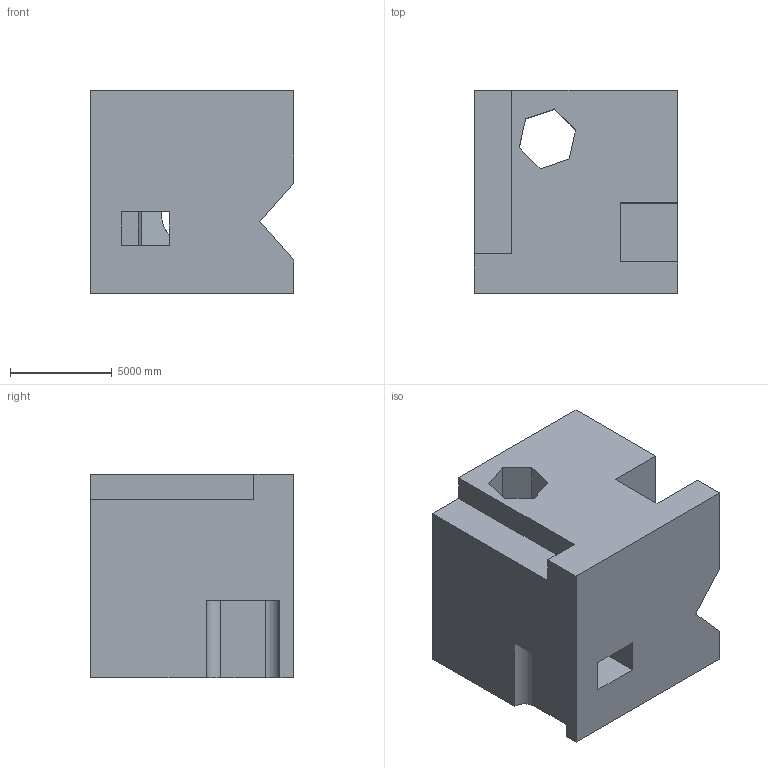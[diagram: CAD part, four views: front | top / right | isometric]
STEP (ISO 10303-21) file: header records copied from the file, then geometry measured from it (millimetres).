
FILE_DESCRIPTION (( 'STEP AP203' ), '1' );
FILE_NAME ('1641.STEP', '2022-08-19T11:17:00', ( 'user' ), ( '' ), 'SwSTEP 2.0', 'SolidWorks 2021', '' );
FILE_SCHEMA (( 'CONFIG_CONTROL_DESIGN' ));
Length unit declared in the file: centimetre
Products named in the file (1): 1641
Bounding box: 10000 x 10000 x 10000 mm (x, y, z)
Volume: 810644547602.2 mm3; surface area: 767102474.2 mm2
Topology: 1 solids, 1 shells, 38 faces, 114 edges, 76 vertices
Faces by surface type: plane 32, cylinder 6
Entity records: 1356 total; most frequent: CARTESIAN_POINT 256, ORIENTED_EDGE 228, DIRECTION 192, EDGE_CURVE 114, VECTOR 96, LINE 96, VERTEX_POINT 76, AXIS2_PLACEMENT_3D 48
